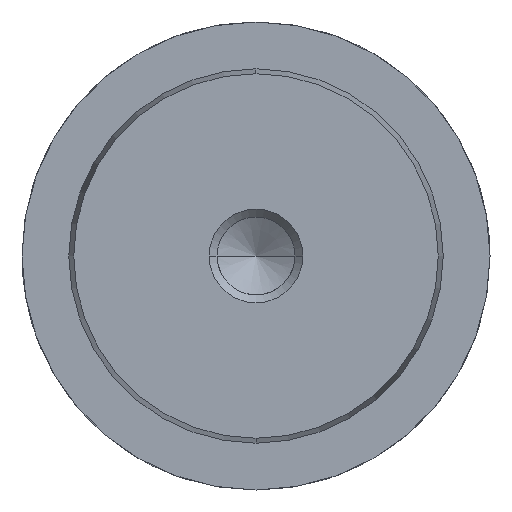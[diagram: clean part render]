
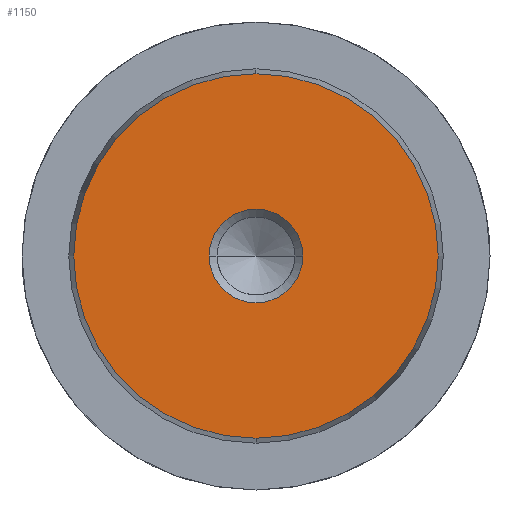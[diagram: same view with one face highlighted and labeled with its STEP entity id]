
A CAD part, left-side view. The second image highlights one B-rep face of the part: STEP entity #1150.
In plain terms, the highlighted planar face has unit normal (-1, 0, 0).
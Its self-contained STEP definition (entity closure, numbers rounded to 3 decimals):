
#1064=CARTESIAN_POINT('Vertex',(0.,0.,-15.578)) ;
#1067=CARTESIAN_POINT('Axis2P3D Location',(0.,0.,0.)) ;
#1071=CARTESIAN_POINT('Vertex',(0.,15.578,0.)) ;
#1074=CARTESIAN_POINT('Axis2P3D Location',(0.,0.,0.)) ;
#1078=CARTESIAN_POINT('Vertex',(0.,0.,15.578)) ;
#1100=CARTESIAN_POINT('Axis2P3D Location',(0.,0.,0.)) ;
#1104=CARTESIAN_POINT('Vertex',(0.,-15.578,0.)) ;
#1107=CARTESIAN_POINT('Axis2P3D Location',(0.,0.,0.)) ;
#1121=CARTESIAN_POINT('Axis2P3D Location',(0.,0.,0.)) ;
#1132=CARTESIAN_POINT('Axis2P3D Location',(0.,0.,0.)) ;
#1136=CARTESIAN_POINT('Vertex',(0.,4.,0.)) ;
#1138=CARTESIAN_POINT('Vertex',(0.,-4.,0.)) ;
#1141=CARTESIAN_POINT('Axis2P3D Location',(0.,0.,0.)) ;
#1068=DIRECTION('Axis2P3D Direction',(1.,0.,-0.)) ;
#1075=DIRECTION('Axis2P3D Direction',(1.,0.,-0.)) ;
#1101=DIRECTION('Axis2P3D Direction',(1.,0.,-0.)) ;
#1108=DIRECTION('Axis2P3D Direction',(1.,0.,-0.)) ;
#1122=DIRECTION('Axis2P3D Direction',(1.,0.,-0.)) ;
#1123=DIRECTION('Axis2P3D XDirection',(-0.,0.,-1.)) ;
#1133=DIRECTION('Axis2P3D Direction',(1.,0.,-0.)) ;
#1142=DIRECTION('Axis2P3D Direction',(1.,0.,-0.)) ;
#1069=AXIS2_PLACEMENT_3D('Circle Axis2P3D',#1067,#1068,$) ;
#1076=AXIS2_PLACEMENT_3D('Circle Axis2P3D',#1074,#1075,$) ;
#1102=AXIS2_PLACEMENT_3D('Circle Axis2P3D',#1100,#1101,$) ;
#1109=AXIS2_PLACEMENT_3D('Circle Axis2P3D',#1107,#1108,$) ;
#1124=AXIS2_PLACEMENT_3D('Plane Axis2P3D',#1121,#1122,#1123) ;
#1134=AXIS2_PLACEMENT_3D('Circle Axis2P3D',#1132,#1133,$) ;
#1143=AXIS2_PLACEMENT_3D('Circle Axis2P3D',#1141,#1142,$) ;
#1127=ORIENTED_EDGE('',*,*,#1073,.F.) ;
#1128=ORIENTED_EDGE('',*,*,#1111,.F.) ;
#1129=ORIENTED_EDGE('',*,*,#1106,.F.) ;
#1130=ORIENTED_EDGE('',*,*,#1080,.F.) ;
#1147=ORIENTED_EDGE('',*,*,#1140,.T.) ;
#1148=ORIENTED_EDGE('',*,*,#1145,.T.) ;
#1149=FACE_BOUND('',#1146,.T.) ;
#1150=ADVANCED_FACE('718-32x250',(#1131,#1149),#1125,.F.) ;
#1070=CIRCLE('generated circle',#1069,15.578) ;
#1077=CIRCLE('generated circle',#1076,15.578) ;
#1103=CIRCLE('generated circle',#1102,15.578) ;
#1110=CIRCLE('generated circle',#1109,15.578) ;
#1135=CIRCLE('generated circle',#1134,4.) ;
#1144=CIRCLE('generated circle',#1143,4.) ;
#1073=EDGE_CURVE('',#1065,#1072,#1070,.T.) ;
#1080=EDGE_CURVE('',#1072,#1079,#1077,.T.) ;
#1106=EDGE_CURVE('',#1079,#1105,#1103,.T.) ;
#1111=EDGE_CURVE('',#1105,#1065,#1110,.T.) ;
#1140=EDGE_CURVE('',#1137,#1139,#1135,.T.) ;
#1145=EDGE_CURVE('',#1139,#1137,#1144,.T.) ;
#1126=EDGE_LOOP('',(#1127,#1128,#1129,#1130)) ;
#1146=EDGE_LOOP('',(#1147,#1148)) ;
#1131=FACE_OUTER_BOUND('',#1126,.T.) ;
#1125=PLANE('Plane',#1124) ;
#1065=VERTEX_POINT('',#1064) ;
#1072=VERTEX_POINT('',#1071) ;
#1079=VERTEX_POINT('',#1078) ;
#1105=VERTEX_POINT('',#1104) ;
#1137=VERTEX_POINT('',#1136) ;
#1139=VERTEX_POINT('',#1138) ;
